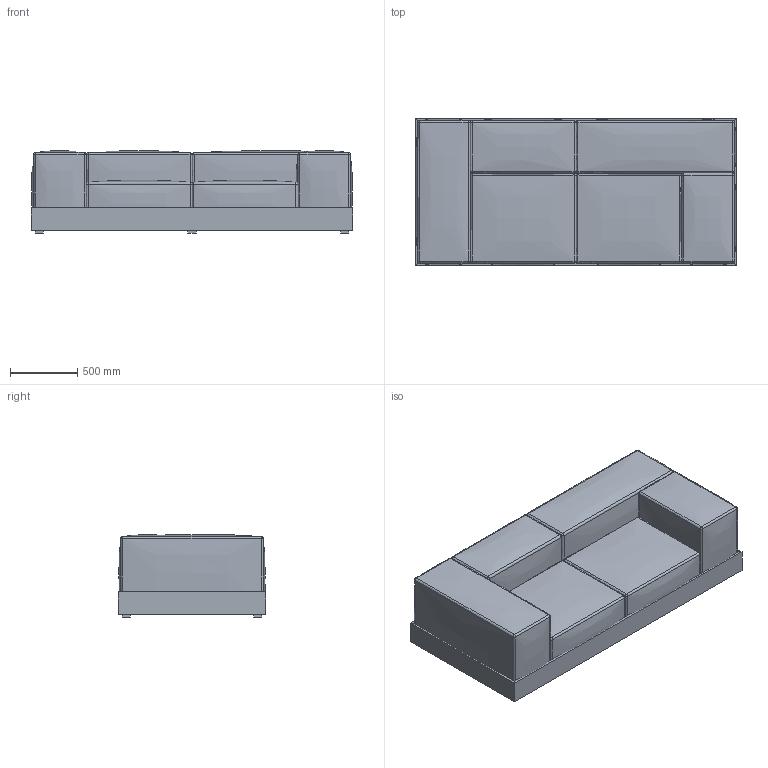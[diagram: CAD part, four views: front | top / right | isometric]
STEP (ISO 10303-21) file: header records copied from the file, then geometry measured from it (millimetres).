
FILE_DESCRIPTION(/* description */ (''),/* implementation_level */ '2;1');
FILE_NAME(/* name */ 'Polp1 240 sco.step',/* time_stamp */ '2024-01-07T10:11:03+01:00',/* author */ (''),/* organization */ (''),/* preprocessor_version */ 'ST-DEVELOPER v20',/* originating_system */ 'Autodesk Translation Framework v12.14.0.127',/* authorisation */ '');
FILE_SCHEMA (('AUTOMOTIVE_DESIGN { 1 0 10303 214 3 1 1 }'));
Length unit declared in the file: millimetre
Products named in the file (7): Polp1 240 sco; Component1; Component2; Component4; Component5; Component7; Component10
Assembly tree (6 placements, depth 2):
  Polp1 240 sco
    Component1
    Component2
    Component4
    Component5
    Component7
    Component10
Bounding box: 2400 x 1100 x 615 mm (x, y, z)
Volume: 1251938556.1 mm3; surface area: 20555721.4 mm2
Topology: 22 solids, 22 shells, 252 faces, 480 edges, 272 vertices
Faces by surface type: plane 112, bspline 78, sphere 48, cylinder 14
Entity records: 15087 total; most frequent: CARTESIAN_POINT 10215, ORIENTED_EDGE 960, DIRECTION 882, EDGE_CURVE 480, AXIS2_PLACEMENT_3D 331, VERTEX_POINT 272, FACE_OUTER_BOUND 252, EDGE_LOOP 252
